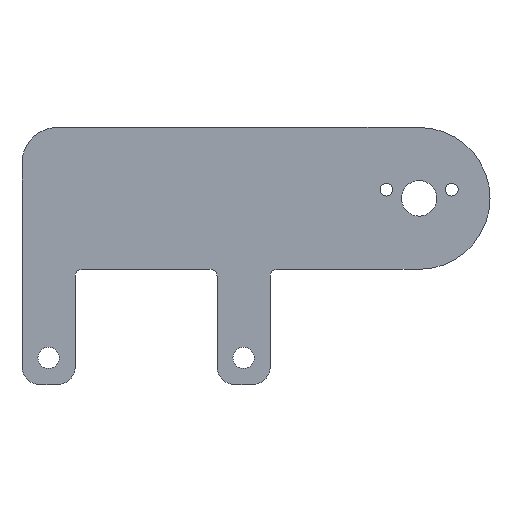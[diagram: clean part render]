
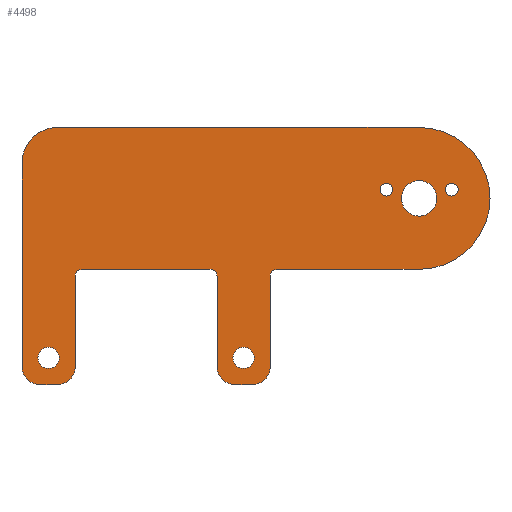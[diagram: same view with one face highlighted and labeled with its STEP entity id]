
A CAD part, front view. The second image highlights one B-rep face of the part: STEP entity #4498.
In plain terms, the highlighted planar face has unit normal (0, -1, 0).
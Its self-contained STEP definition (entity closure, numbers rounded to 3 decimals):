
#43=CIRCLE('',#4618,5.);
#44=CIRCLE('',#4620,1.8);
#45=CIRCLE('',#4622,1.8);
#46=CIRCLE('',#4624,3.);
#47=CIRCLE('',#4626,3.);
#48=CIRCLE('',#4629,2.);
#49=CIRCLE('',#4632,20.);
#50=CIRCLE('',#4635,10.);
#51=CIRCLE('',#4638,5.);
#52=CIRCLE('',#4641,5.);
#53=CIRCLE('',#4644,2.);
#54=CIRCLE('',#4647,2.);
#55=CIRCLE('',#4650,5.);
#56=CIRCLE('',#4653,5.);
#72=FACE_BOUND('',#661,.T.);
#73=FACE_BOUND('',#662,.T.);
#74=FACE_BOUND('',#663,.T.);
#75=FACE_BOUND('',#664,.T.);
#76=FACE_BOUND('',#665,.T.);
#177=PLANE('',#4655);
#411=FACE_OUTER_BOUND('',#660,.T.);
#660=EDGE_LOOP('',(#4123,#4124,#4125,#4126,#4127,#4128,#4129,#4130,#4131,
#4132,#4133,#4134,#4135,#4136,#4137,#4138,#4139,#4140));
#661=EDGE_LOOP('',(#4141));
#662=EDGE_LOOP('',(#4142));
#663=EDGE_LOOP('',(#4143));
#664=EDGE_LOOP('',(#4144));
#665=EDGE_LOOP('',(#4145));
#1039=LINE('',#8165,#1439);
#1043=LINE('',#8174,#1443);
#1046=LINE('',#8182,#1446);
#1049=LINE('',#8190,#1449);
#1052=LINE('',#8198,#1452);
#1055=LINE('',#8206,#1455);
#1058=LINE('',#8214,#1458);
#1061=LINE('',#8222,#1461);
#1064=LINE('',#8230,#1464);
#1439=VECTOR('',#5261,10.);
#1443=VECTOR('',#5271,10.);
#1446=VECTOR('',#5280,10.);
#1449=VECTOR('',#5289,10.);
#1452=VECTOR('',#5298,10.);
#1455=VECTOR('',#5307,10.);
#1458=VECTOR('',#5316,10.);
#1461=VECTOR('',#5325,10.);
#1464=VECTOR('',#5334,10.);
#2125=VERTEX_POINT('',#8143);
#2126=VERTEX_POINT('',#8147);
#2127=VERTEX_POINT('',#8151);
#2128=VERTEX_POINT('',#8155);
#2129=VERTEX_POINT('',#8159);
#2130=VERTEX_POINT('',#8163);
#2131=VERTEX_POINT('',#8164);
#2132=VERTEX_POINT('',#8169);
#2133=VERTEX_POINT('',#8173);
#2134=VERTEX_POINT('',#8177);
#2135=VERTEX_POINT('',#8181);
#2136=VERTEX_POINT('',#8185);
#2137=VERTEX_POINT('',#8189);
#2138=VERTEX_POINT('',#8193);
#2139=VERTEX_POINT('',#8197);
#2140=VERTEX_POINT('',#8201);
#2141=VERTEX_POINT('',#8205);
#2142=VERTEX_POINT('',#8209);
#2143=VERTEX_POINT('',#8213);
#2144=VERTEX_POINT('',#8217);
#2145=VERTEX_POINT('',#8221);
#2146=VERTEX_POINT('',#8225);
#2147=VERTEX_POINT('',#8229);
#2769=EDGE_CURVE('',#2125,#2125,#43,.T.);
#2771=EDGE_CURVE('',#2126,#2126,#44,.T.);
#2773=EDGE_CURVE('',#2127,#2127,#45,.T.);
#2775=EDGE_CURVE('',#2128,#2128,#46,.T.);
#2777=EDGE_CURVE('',#2129,#2129,#47,.T.);
#2778=EDGE_CURVE('',#2130,#2131,#1039,.T.);
#2781=EDGE_CURVE('',#2131,#2132,#48,.T.);
#2783=EDGE_CURVE('',#2132,#2133,#1043,.T.);
#2785=EDGE_CURVE('',#2134,#2133,#49,.T.);
#2787=EDGE_CURVE('',#2134,#2135,#1046,.T.);
#2789=EDGE_CURVE('',#2136,#2135,#50,.T.);
#2791=EDGE_CURVE('',#2136,#2137,#1049,.T.);
#2793=EDGE_CURVE('',#2138,#2137,#51,.T.);
#2795=EDGE_CURVE('',#2138,#2139,#1052,.T.);
#2797=EDGE_CURVE('',#2140,#2139,#52,.T.);
#2799=EDGE_CURVE('',#2140,#2141,#1055,.T.);
#2801=EDGE_CURVE('',#2141,#2142,#53,.T.);
#2803=EDGE_CURVE('',#2142,#2143,#1058,.T.);
#2805=EDGE_CURVE('',#2143,#2144,#54,.T.);
#2807=EDGE_CURVE('',#2144,#2145,#1061,.T.);
#2809=EDGE_CURVE('',#2146,#2145,#55,.T.);
#2811=EDGE_CURVE('',#2146,#2147,#1064,.T.);
#2813=EDGE_CURVE('',#2130,#2147,#56,.T.);
#4123=ORIENTED_EDGE('',*,*,#2813,.F.);
#4124=ORIENTED_EDGE('',*,*,#2778,.T.);
#4125=ORIENTED_EDGE('',*,*,#2781,.T.);
#4126=ORIENTED_EDGE('',*,*,#2783,.T.);
#4127=ORIENTED_EDGE('',*,*,#2785,.F.);
#4128=ORIENTED_EDGE('',*,*,#2787,.T.);
#4129=ORIENTED_EDGE('',*,*,#2789,.F.);
#4130=ORIENTED_EDGE('',*,*,#2791,.T.);
#4131=ORIENTED_EDGE('',*,*,#2793,.F.);
#4132=ORIENTED_EDGE('',*,*,#2795,.T.);
#4133=ORIENTED_EDGE('',*,*,#2797,.F.);
#4134=ORIENTED_EDGE('',*,*,#2799,.T.);
#4135=ORIENTED_EDGE('',*,*,#2801,.T.);
#4136=ORIENTED_EDGE('',*,*,#2803,.T.);
#4137=ORIENTED_EDGE('',*,*,#2805,.T.);
#4138=ORIENTED_EDGE('',*,*,#2807,.T.);
#4139=ORIENTED_EDGE('',*,*,#2809,.F.);
#4140=ORIENTED_EDGE('',*,*,#2811,.T.);
#4141=ORIENTED_EDGE('',*,*,#2777,.F.);
#4142=ORIENTED_EDGE('',*,*,#2775,.F.);
#4143=ORIENTED_EDGE('',*,*,#2773,.F.);
#4144=ORIENTED_EDGE('',*,*,#2771,.F.);
#4145=ORIENTED_EDGE('',*,*,#2769,.F.);
#4498=ADVANCED_FACE('',(#411,#72,#73,#74,#75,#76),#177,.F.);
#4618=AXIS2_PLACEMENT_3D('',#8145,#5237,#5238);
#4620=AXIS2_PLACEMENT_3D('',#8149,#5242,#5243);
#4622=AXIS2_PLACEMENT_3D('',#8153,#5247,#5248);
#4624=AXIS2_PLACEMENT_3D('',#8157,#5252,#5253);
#4626=AXIS2_PLACEMENT_3D('',#8161,#5257,#5258);
#4629=AXIS2_PLACEMENT_3D('',#8170,#5266,#5267);
#4632=AXIS2_PLACEMENT_3D('',#8178,#5275,#5276);
#4635=AXIS2_PLACEMENT_3D('',#8186,#5284,#5285);
#4638=AXIS2_PLACEMENT_3D('',#8194,#5293,#5294);
#4641=AXIS2_PLACEMENT_3D('',#8202,#5302,#5303);
#4644=AXIS2_PLACEMENT_3D('',#8210,#5311,#5312);
#4647=AXIS2_PLACEMENT_3D('',#8218,#5320,#5321);
#4650=AXIS2_PLACEMENT_3D('',#8226,#5329,#5330);
#4653=AXIS2_PLACEMENT_3D('',#8233,#5338,#5339);
#4655=AXIS2_PLACEMENT_3D('',#8235,#5342,#5343);
#5237=DIRECTION('center_axis',(0.,-1.,0.));
#5238=DIRECTION('ref_axis',(1.,0.,0.));
#5242=DIRECTION('center_axis',(0.,-1.,0.));
#5243=DIRECTION('ref_axis',(1.,0.,0.));
#5247=DIRECTION('center_axis',(0.,-1.,0.));
#5248=DIRECTION('ref_axis',(1.,0.,0.));
#5252=DIRECTION('center_axis',(0.,-1.,0.));
#5253=DIRECTION('ref_axis',(1.,0.,0.));
#5257=DIRECTION('center_axis',(0.,-1.,0.));
#5258=DIRECTION('ref_axis',(1.,0.,0.));
#5261=DIRECTION('',(0.,0.,1.));
#5266=DIRECTION('center_axis',(0.,1.,0.));
#5267=DIRECTION('ref_axis',(-1.,0.,0.));
#5271=DIRECTION('',(1.,0.,0.));
#5275=DIRECTION('center_axis',(0.,1.,0.));
#5276=DIRECTION('ref_axis',(1.,0.,0.));
#5280=DIRECTION('',(-1.,0.,0.));
#5284=DIRECTION('center_axis',(0.,1.,0.));
#5285=DIRECTION('ref_axis',(-1.,0.,0.));
#5289=DIRECTION('',(0.,0.,-1.));
#5293=DIRECTION('center_axis',(0.,1.,0.));
#5294=DIRECTION('ref_axis',(0.,0.,-1.));
#5298=DIRECTION('',(1.,0.,0.));
#5302=DIRECTION('center_axis',(0.,1.,0.));
#5303=DIRECTION('ref_axis',(1.,0.,0.));
#5307=DIRECTION('',(0.,0.,1.));
#5311=DIRECTION('center_axis',(0.,1.,0.));
#5312=DIRECTION('ref_axis',(-1.,0.,0.));
#5316=DIRECTION('',(1.,0.,0.));
#5320=DIRECTION('center_axis',(0.,1.,0.));
#5321=DIRECTION('ref_axis',(0.,0.,1.));
#5325=DIRECTION('',(0.,0.,-1.));
#5329=DIRECTION('center_axis',(0.,1.,0.));
#5330=DIRECTION('ref_axis',(0.,0.,-1.));
#5334=DIRECTION('',(1.,0.,0.));
#5338=DIRECTION('center_axis',(0.,1.,0.));
#5339=DIRECTION('ref_axis',(1.,0.,0.));
#5342=DIRECTION('center_axis',(0.,1.,0.));
#5343=DIRECTION('ref_axis',(1.,0.,0.));
#8143=CARTESIAN_POINT('',(107.,0.,-20.));
#8145=CARTESIAN_POINT('Origin',(112.,0.,-20.));
#8147=CARTESIAN_POINT('',(100.995,0.,-17.533));
#8149=CARTESIAN_POINT('Origin',(102.795,0.,-17.533));
#8151=CARTESIAN_POINT('',(119.405,0.,-17.533));
#8153=CARTESIAN_POINT('Origin',(121.205,0.,-17.533));
#8155=CARTESIAN_POINT('',(4.5,0.,-65.));
#8157=CARTESIAN_POINT('Origin',(7.5,0.,-65.));
#8159=CARTESIAN_POINT('',(59.5,0.,-65.));
#8161=CARTESIAN_POINT('Origin',(62.5,0.,-65.));
#8163=CARTESIAN_POINT('',(70.,0.,-67.5));
#8164=CARTESIAN_POINT('',(70.,0.,-42.));
#8165=CARTESIAN_POINT('',(70.,0.,-67.5));
#8169=CARTESIAN_POINT('',(72.,0.,-40.));
#8170=CARTESIAN_POINT('Origin',(72.,0.,-42.));
#8173=CARTESIAN_POINT('',(112.,0.,-40.));
#8174=CARTESIAN_POINT('',(72.,0.,-40.));
#8177=CARTESIAN_POINT('',(112.,0.,0.));
#8178=CARTESIAN_POINT('Origin',(112.,0.,-20.));
#8181=CARTESIAN_POINT('',(10.,0.,0.));
#8182=CARTESIAN_POINT('',(112.,0.,0.));
#8185=CARTESIAN_POINT('',(0.,0.,-10.));
#8186=CARTESIAN_POINT('Origin',(10.,0.,-10.));
#8189=CARTESIAN_POINT('',(0.,0.,-67.5));
#8190=CARTESIAN_POINT('',(0.,0.,-10.));
#8193=CARTESIAN_POINT('',(5.,0.,-72.5));
#8194=CARTESIAN_POINT('Origin',(5.,0.,-67.5));
#8197=CARTESIAN_POINT('',(10.,0.,-72.5));
#8198=CARTESIAN_POINT('',(5.,0.,-72.5));
#8201=CARTESIAN_POINT('',(15.,0.,-67.5));
#8202=CARTESIAN_POINT('Origin',(10.,0.,-67.5));
#8205=CARTESIAN_POINT('',(15.,0.,-42.));
#8206=CARTESIAN_POINT('',(15.,0.,-67.5));
#8209=CARTESIAN_POINT('',(17.,0.,-40.));
#8210=CARTESIAN_POINT('Origin',(17.,0.,-42.));
#8213=CARTESIAN_POINT('',(53.,0.,-40.));
#8214=CARTESIAN_POINT('',(17.,0.,-40.));
#8217=CARTESIAN_POINT('',(55.,0.,-42.));
#8218=CARTESIAN_POINT('Origin',(53.,0.,-42.));
#8221=CARTESIAN_POINT('',(55.,0.,-67.5));
#8222=CARTESIAN_POINT('',(55.,0.,-42.));
#8225=CARTESIAN_POINT('',(60.,0.,-72.5));
#8226=CARTESIAN_POINT('Origin',(60.,0.,-67.5));
#8229=CARTESIAN_POINT('',(65.,0.,-72.5));
#8230=CARTESIAN_POINT('',(60.,0.,-72.5));
#8233=CARTESIAN_POINT('Origin',(65.,0.,-67.5));
#8235=CARTESIAN_POINT('Origin',(66.,0.,-36.25));
